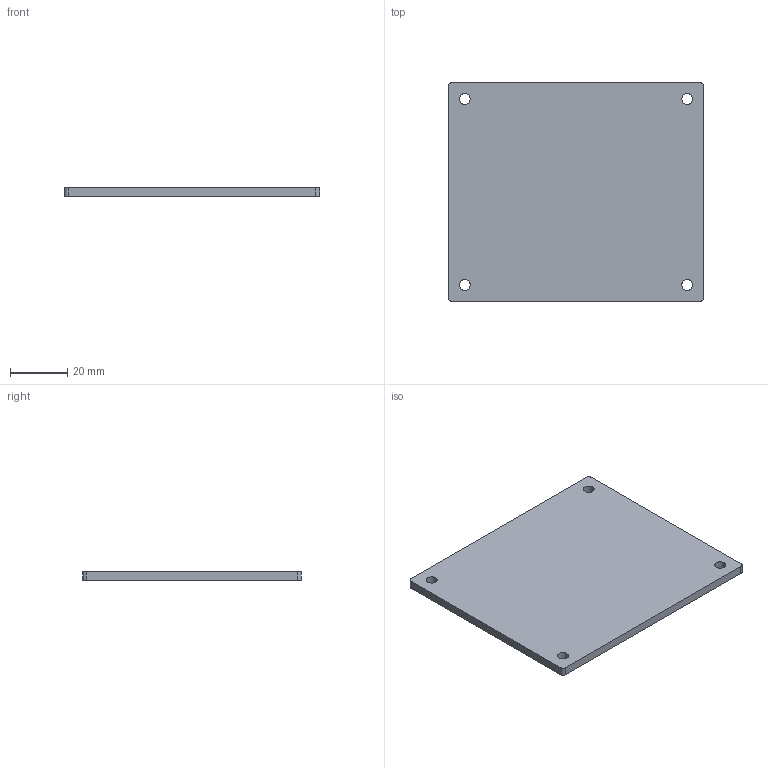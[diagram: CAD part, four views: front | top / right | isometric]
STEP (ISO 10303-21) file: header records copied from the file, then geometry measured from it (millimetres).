
FILE_DESCRIPTION(('FreeCAD Model'),'2;1');
FILE_NAME('Open CASCADE Shape Model','2023-11-05T16:13:31',(''),(''), 'Open CASCADE STEP processor 7.7','FreeCAD','Unknown');
FILE_SCHEMA(('AUTOMOTIVE_DESIGN { 1 0 10303 214 1 1 1 1 }'));
Length unit declared in the file: millimetre
Products named in the file (1): Extrude
Bounding box: 88.9 x 76.2 x 3 mm (x, y, z)
Volume: 20181.6 mm3; surface area: 14582.1 mm2
Topology: 1 solids, 1 shells, 14 faces, 36 edges, 24 vertices
Faces by surface type: cylinder 8, plane 6
Full cylindrical faces by diameter (mm): 3.81 x4
Entity records: 966 total; most frequent: CARTESIAN_POINT 195, DIRECTION 146, LINE 76, VECTOR 76, ORIENTED_EDGE 72, PCURVE 72, DEFINITIONAL_REPRESENTATION 72, EDGE_CURVE 36
